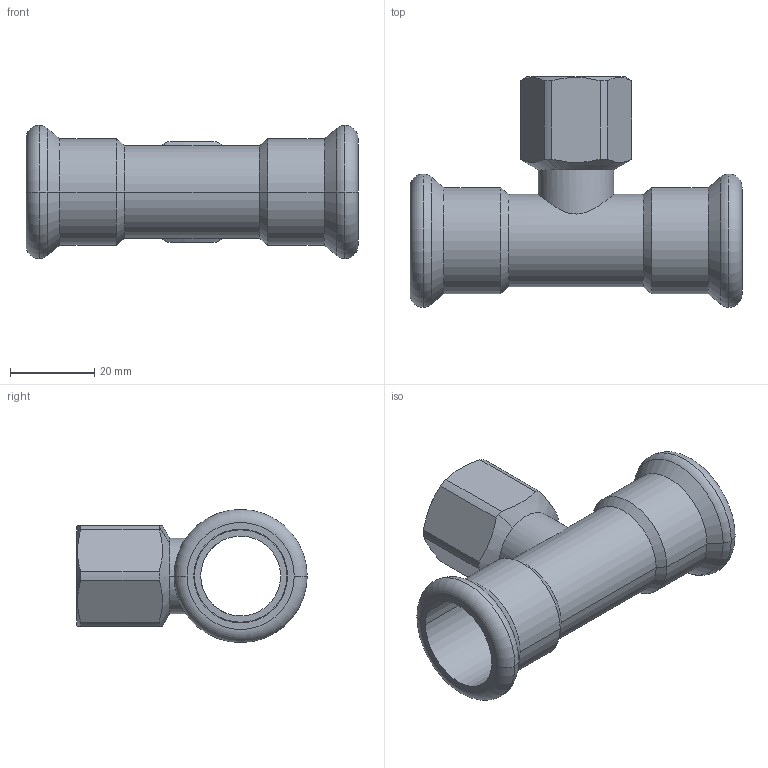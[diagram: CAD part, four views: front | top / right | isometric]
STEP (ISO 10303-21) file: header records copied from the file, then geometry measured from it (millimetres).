
FILE_DESCRIPTION(('CoCreate Modeling STEP Export'),'2;1');
FILE_NAME('C1418 22xRp1-2x22.stp','2014-11-12T13:36:10',(''),(''),'CoCreate Modeling STEP processor for AP214 (Solid Model)','CoCreate Modeling 17.00A 17-Jun-2010 (C) Parametric Technology GmbH','');
FILE_SCHEMA(('AUTOMOTIVE_DESIGN { 1 0 10303 214 1 1 1 1 }'));
Length unit declared in the file: millimetre
Products named in the file (2): C1418_22xRp1-2x22
Assembly tree (1 placements, depth 2):
  C1418_22xRp1-2x22
    C1418_22xRp1-2x22
Bounding box: 79 x 54.85 x 31.7 mm (x, y, z)
Volume: 15988.8 mm3; surface area: 16411.7 mm2
Topology: 1 solids, 1 shells, 62 faces, 149 edges, 93 vertices
Faces by surface type: cylinder 28, plane 14, cone 12, torus 8
Entity records: 3502 total; most frequent: CARTESIAN_POINT 2183, ORIENTED_EDGE 298, DIRECTION 224, EDGE_CURVE 149, VERTEX_POINT 93, AXIS2_PLACEMENT_3D 89, EDGE_LOOP 70, FACE_OUTER_BOUND 62
